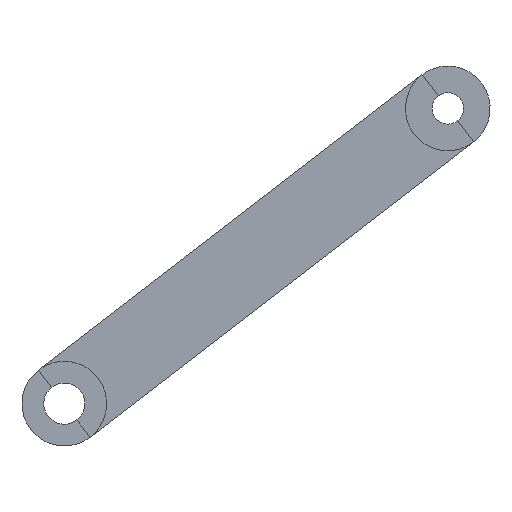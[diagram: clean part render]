
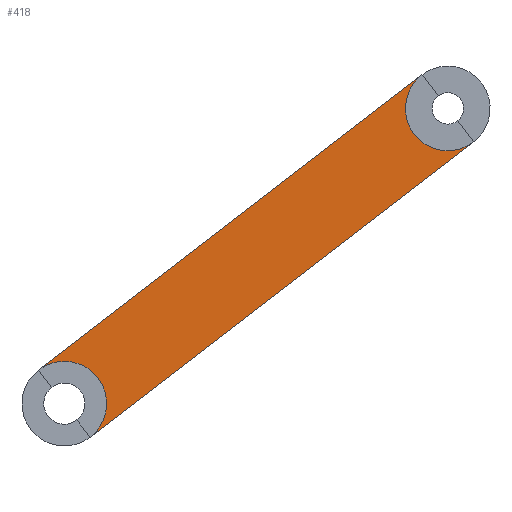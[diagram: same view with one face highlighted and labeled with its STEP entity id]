
A CAD part, front view. The second image highlights one B-rep face of the part: STEP entity #418.
In plain terms, the highlighted planar face has unit normal (0, -1, 0).
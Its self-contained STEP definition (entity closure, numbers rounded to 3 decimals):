
#24 = VERTEX_POINT('',#25);
#25 = CARTESIAN_POINT('',(10.675,-24.,469.606));
#32 = PLANE('',#33);
#33 = AXIS2_PLACEMENT_3D('',#34,#35,#36);
#34 = CARTESIAN_POINT('',(10.675,-16.,469.606));
#35 = DIRECTION('',(0.61,0.,-0.792));
#36 = DIRECTION('',(-0.792,0.,-0.61));
#56 = EDGE_CURVE('',#24,#57,#59,.T.);
#57 = VERTEX_POINT('',#58);
#58 = CARTESIAN_POINT('',(-147.802,-24.,347.602));
#59 = SURFACE_CURVE('',#60,(#64,#71),.PCURVE_S1.);
#60 = LINE('',#61,#62);
#61 = CARTESIAN_POINT('',(10.675,-24.,469.606));
#62 = VECTOR('',#63,1.);
#63 = DIRECTION('',(-0.792,0.,-0.61));
#64 = PCURVE('',#32,#65);
#65 = DEFINITIONAL_REPRESENTATION('',(#66),#70);
#66 = LINE('',#67,#68);
#67 = CARTESIAN_POINT('',(-0.,-8.));
#68 = VECTOR('',#69,1.);
#69 = DIRECTION('',(1.,0.));
#70 = ( GEOMETRIC_REPRESENTATION_CONTEXT(2) 
PARAMETRIC_REPRESENTATION_CONTEXT() REPRESENTATION_CONTEXT('2D SPACE',''
  ) );
#71 = PCURVE('',#72,#77);
#72 = PLANE('',#73);
#73 = AXIS2_PLACEMENT_3D('',#74,#75,#76);
#74 = CARTESIAN_POINT('',(-79.239,-24.,422.471));
#75 = DIRECTION('',(0.,1.,0.));
#76 = DIRECTION('',(0.,-0.,1.));
#77 = DEFINITIONAL_REPRESENTATION('',(#78),#82);
#78 = LINE('',#79,#80);
#79 = CARTESIAN_POINT('',(47.135,89.914));
#80 = VECTOR('',#81,1.);
#81 = DIRECTION('',(-0.61,-0.792));
#82 = ( GEOMETRIC_REPRESENTATION_CONTEXT(2) 
PARAMETRIC_REPRESENTATION_CONTEXT() REPRESENTATION_CONTEXT('2D SPACE',''
  ) );
#260 = VERTEX_POINT('',#261);
#261 = CARTESIAN_POINT('',(-169.153,-24.,375.335));
#302 = PLANE('',#303);
#303 = AXIS2_PLACEMENT_3D('',#304,#305,#306);
#304 = CARTESIAN_POINT('',(-169.153,-16.,375.335));
#305 = DIRECTION('',(-0.61,0.,0.792));
#306 = DIRECTION('',(0.792,0.,0.61));
#418 = ADVANCED_FACE('',(#419),#72,.F.);
#419 = FACE_BOUND('',#420,.F.);
#420 = EDGE_LOOP('',(#421,#450,#451,#480,#502));
#421 = ORIENTED_EDGE('',*,*,#422,.F.);
#422 = EDGE_CURVE('',#24,#423,#425,.T.);
#423 = VERTEX_POINT('',#424);
#424 = CARTESIAN_POINT('',(-10.675,-24.,497.339));
#425 = SURFACE_CURVE('',#426,(#431,#438),.PCURVE_S1.);
#426 = CIRCLE('',#427,17.5);
#427 = AXIS2_PLACEMENT_3D('',#428,#429,#430);
#428 = CARTESIAN_POINT('',(0.,-24.,483.472));
#429 = DIRECTION('',(0.,1.,0.));
#430 = DIRECTION('',(0.,-0.,1.));
#431 = PCURVE('',#72,#432);
#432 = DEFINITIONAL_REPRESENTATION('',(#433),#437);
#433 = CIRCLE('',#434,17.5);
#434 = AXIS2_PLACEMENT_2D('',#435,#436);
#435 = CARTESIAN_POINT('',(61.002,79.239));
#436 = DIRECTION('',(1.,0.));
#437 = ( GEOMETRIC_REPRESENTATION_CONTEXT(2) 
PARAMETRIC_REPRESENTATION_CONTEXT() REPRESENTATION_CONTEXT('2D SPACE',''
  ) );
#438 = PCURVE('',#439,#444);
#439 = PLANE('',#440);
#440 = AXIS2_PLACEMENT_3D('',#441,#442,#443);
#441 = CARTESIAN_POINT('',(-79.239,-24.,422.471));
#442 = DIRECTION('',(0.,1.,0.));
#443 = DIRECTION('',(0.,-0.,1.));
#444 = DEFINITIONAL_REPRESENTATION('',(#445),#449);
#445 = CIRCLE('',#446,17.5);
#446 = AXIS2_PLACEMENT_2D('',#447,#448);
#447 = CARTESIAN_POINT('',(61.002,79.239));
#448 = DIRECTION('',(1.,0.));
#449 = ( GEOMETRIC_REPRESENTATION_CONTEXT(2) 
PARAMETRIC_REPRESENTATION_CONTEXT() REPRESENTATION_CONTEXT('2D SPACE',''
  ) );
#450 = ORIENTED_EDGE('',*,*,#56,.T.);
#451 = ORIENTED_EDGE('',*,*,#452,.F.);
#452 = EDGE_CURVE('',#453,#57,#455,.T.);
#453 = VERTEX_POINT('',#454);
#454 = CARTESIAN_POINT('',(-158.477,-24.,378.969));
#455 = SURFACE_CURVE('',#456,(#461,#468),.PCURVE_S1.);
#456 = CIRCLE('',#457,17.5);
#457 = AXIS2_PLACEMENT_3D('',#458,#459,#460);
#458 = CARTESIAN_POINT('',(-158.477,-24.,361.469));
#459 = DIRECTION('',(0.,1.,0.));
#460 = DIRECTION('',(0.,-0.,1.));
#461 = PCURVE('',#72,#462);
#462 = DEFINITIONAL_REPRESENTATION('',(#463),#467);
#463 = CIRCLE('',#464,17.5);
#464 = AXIS2_PLACEMENT_2D('',#465,#466);
#465 = CARTESIAN_POINT('',(-61.002,-79.239));
#466 = DIRECTION('',(1.,0.));
#467 = ( GEOMETRIC_REPRESENTATION_CONTEXT(2) 
PARAMETRIC_REPRESENTATION_CONTEXT() REPRESENTATION_CONTEXT('2D SPACE',''
  ) );
#468 = PCURVE('',#469,#474);
#469 = PLANE('',#470);
#470 = AXIS2_PLACEMENT_3D('',#471,#472,#473);
#471 = CARTESIAN_POINT('',(-79.239,-24.,422.471));
#472 = DIRECTION('',(0.,1.,0.));
#473 = DIRECTION('',(0.,-0.,1.));
#474 = DEFINITIONAL_REPRESENTATION('',(#475),#479);
#475 = CIRCLE('',#476,17.5);
#476 = AXIS2_PLACEMENT_2D('',#477,#478);
#477 = CARTESIAN_POINT('',(-61.002,-79.239));
#478 = DIRECTION('',(1.,0.));
#479 = ( GEOMETRIC_REPRESENTATION_CONTEXT(2) 
PARAMETRIC_REPRESENTATION_CONTEXT() REPRESENTATION_CONTEXT('2D SPACE',''
  ) );
#480 = ORIENTED_EDGE('',*,*,#481,.F.);
#481 = EDGE_CURVE('',#260,#453,#482,.T.);
#482 = SURFACE_CURVE('',#483,(#488,#495),.PCURVE_S1.);
#483 = CIRCLE('',#484,17.5);
#484 = AXIS2_PLACEMENT_3D('',#485,#486,#487);
#485 = CARTESIAN_POINT('',(-158.477,-24.,361.469));
#486 = DIRECTION('',(0.,1.,0.));
#487 = DIRECTION('',(0.,-0.,1.));
#488 = PCURVE('',#72,#489);
#489 = DEFINITIONAL_REPRESENTATION('',(#490),#494);
#490 = CIRCLE('',#491,17.5);
#491 = AXIS2_PLACEMENT_2D('',#492,#493);
#492 = CARTESIAN_POINT('',(-61.002,-79.239));
#493 = DIRECTION('',(1.,0.));
#494 = ( GEOMETRIC_REPRESENTATION_CONTEXT(2) 
PARAMETRIC_REPRESENTATION_CONTEXT() REPRESENTATION_CONTEXT('2D SPACE',''
  ) );
#495 = PCURVE('',#469,#496);
#496 = DEFINITIONAL_REPRESENTATION('',(#497),#501);
#497 = CIRCLE('',#498,17.5);
#498 = AXIS2_PLACEMENT_2D('',#499,#500);
#499 = CARTESIAN_POINT('',(-61.002,-79.239));
#500 = DIRECTION('',(1.,0.));
#501 = ( GEOMETRIC_REPRESENTATION_CONTEXT(2) 
PARAMETRIC_REPRESENTATION_CONTEXT() REPRESENTATION_CONTEXT('2D SPACE',''
  ) );
#502 = ORIENTED_EDGE('',*,*,#503,.T.);
#503 = EDGE_CURVE('',#260,#423,#504,.T.);
#504 = SURFACE_CURVE('',#505,(#509,#516),.PCURVE_S1.);
#505 = LINE('',#506,#507);
#506 = CARTESIAN_POINT('',(-169.153,-24.,375.335));
#507 = VECTOR('',#508,1.);
#508 = DIRECTION('',(0.792,0.,0.61));
#509 = PCURVE('',#72,#510);
#510 = DEFINITIONAL_REPRESENTATION('',(#511),#515);
#511 = LINE('',#512,#513);
#512 = CARTESIAN_POINT('',(-47.135,-89.914));
#513 = VECTOR('',#514,1.);
#514 = DIRECTION('',(0.61,0.792));
#515 = ( GEOMETRIC_REPRESENTATION_CONTEXT(2) 
PARAMETRIC_REPRESENTATION_CONTEXT() REPRESENTATION_CONTEXT('2D SPACE',''
  ) );
#516 = PCURVE('',#302,#517);
#517 = DEFINITIONAL_REPRESENTATION('',(#518),#522);
#518 = LINE('',#519,#520);
#519 = CARTESIAN_POINT('',(0.,-8.));
#520 = VECTOR('',#521,1.);
#521 = DIRECTION('',(1.,0.));
#522 = ( GEOMETRIC_REPRESENTATION_CONTEXT(2) 
PARAMETRIC_REPRESENTATION_CONTEXT() REPRESENTATION_CONTEXT('2D SPACE',''
  ) );
